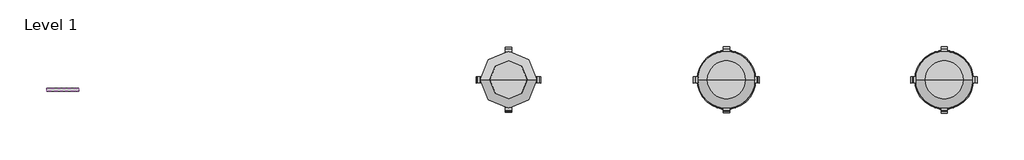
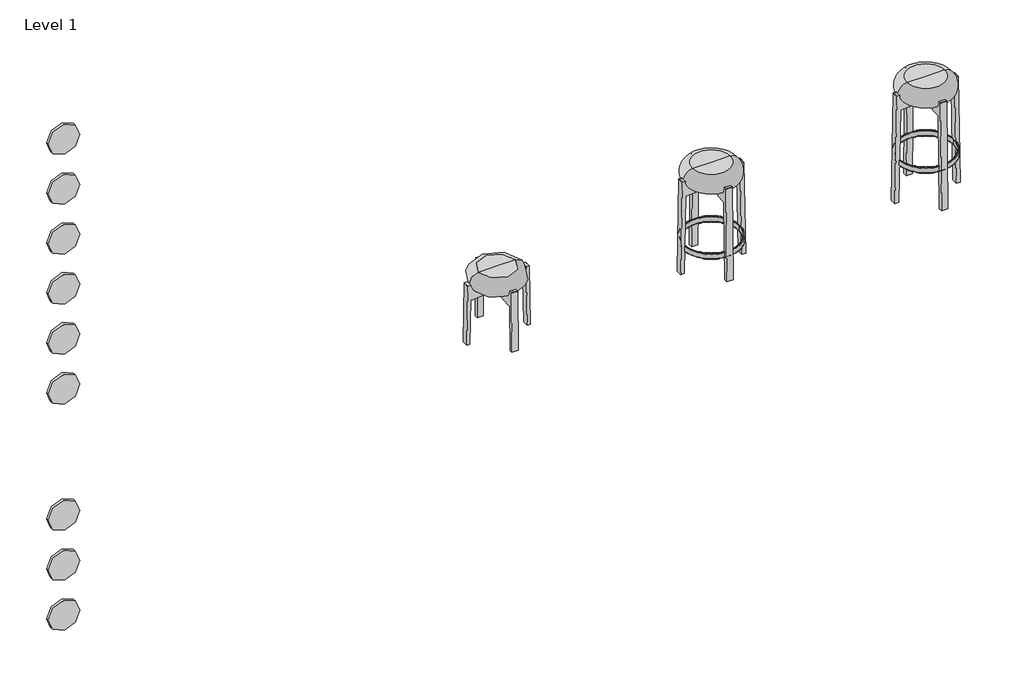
# One storey: 9 proxies, 3 furniture elements.
"""IFC4 building model written with IfcOpenShell, lengths in millimetres."""

from ifc_helpers import new_model, si_unit, origin, place, context, project, spatial, transform, mapped, element, save
from components import materialmodel_materialmodel_eea4b46c, furniture_37271b22, furniture_5f3fde73, furniture_f48b6f14

model = new_model("IFC4")

# Units and contexts
model_context = context("Model", 3, world=origin())
ifc_project = project(units=[si_unit("LENGTHUNIT", "METRE", prefix="MILLI")], contexts=[model_context])

# Site, building, storey
site = spatial("IfcSite", under=ifc_project)
building = spatial("IfcBuilding", under=site)
storey = spatial("IfcBuildingStorey", under=building, Name="Level 1", Elevation=0.0)

# Proxies
placement = place(None, origin())
materialmodel_materialmodel_shape = materialmodel_materialmodel_eea4b46c(model_context)
element("IfcBuildingElementProxy", 1, Name="MaterialModel : MaterialModel", ObjectType="MaterialModel : MaterialModel", at=placement, inside=storey, context=model_context, shape_type="MappedRepresentation", body=[
    mapped(materialmodel_materialmodel_shape, transform((-13500.792914, 6397.5703847, -212.5599218), x_axis=(1.0, 0.0, 0.0), y_axis=(0.0, 1.0, 0.0), z_axis=(0.0, 0.0, 1.0))),
])
element("IfcBuildingElementProxy", 2, Name="MaterialModel : MaterialModel", ObjectType="MaterialModel : MaterialModel", at=placement, inside=storey, context=model_context, shape_type="MappedRepresentation", body=[
    mapped(materialmodel_materialmodel_shape, transform((-13500.792914, 6397.5703847, -547.5599218), x_axis=(1.0, 0.0, 0.0), y_axis=(0.0, 1.0, 0.0), z_axis=(0.0, 0.0, 1.0))),
])
element("IfcBuildingElementProxy", 3, Name="MaterialModel : MaterialModel", ObjectType="MaterialModel : MaterialModel", at=placement, inside=storey, context=model_context, shape_type="MappedRepresentation", body=[
    mapped(materialmodel_materialmodel_shape, transform((-13500.792914, 6397.5703847, -882.5599218), x_axis=(1.0, 0.0, 0.0), y_axis=(0.0, 1.0, 0.0), z_axis=(0.0, 0.0, 1.0))),
])
element("IfcBuildingElementProxy", 4, Name="MaterialModel : MaterialModel", ObjectType="MaterialModel : MaterialModel", at=placement, inside=storey, context=model_context, shape_type="MappedRepresentation", body=[
    mapped(materialmodel_materialmodel_shape, transform((-13500.792914, 6397.5703847, 2307.4400782), x_axis=(1.0, 0.0, 0.0), y_axis=(0.0, 1.0, 0.0), z_axis=(0.0, 0.0, 1.0))),
])
element("IfcBuildingElementProxy", 5, Name="MaterialModel : MaterialModel", ObjectType="MaterialModel : MaterialModel", at=placement, inside=storey, context=model_context, shape_type="MappedRepresentation", body=[
    mapped(materialmodel_materialmodel_shape, transform((-13500.792914, 6397.5703847, 1972.4400782), x_axis=(1.0, 0.0, 0.0), y_axis=(0.0, 1.0, 0.0), z_axis=(0.0, 0.0, 1.0))),
])
element("IfcBuildingElementProxy", 6, Name="MaterialModel : MaterialModel", ObjectType="MaterialModel : MaterialModel", at=placement, inside=storey, context=model_context, shape_type="MappedRepresentation", body=[
    mapped(materialmodel_materialmodel_shape, transform((-13500.792914, 6397.5703847, 1637.4400782), x_axis=(1.0, 0.0, 0.0), y_axis=(0.0, 1.0, 0.0), z_axis=(0.0, 0.0, 1.0))),
])
element("IfcBuildingElementProxy", 7, Name="MaterialModel : MaterialModel", ObjectType="MaterialModel : MaterialModel", at=placement, inside=storey, context=model_context, shape_type="MappedRepresentation", body=[
    mapped(materialmodel_materialmodel_shape, transform((-13500.792914, 6397.5703847, 1302.4400782), x_axis=(1.0, 0.0, 0.0), y_axis=(0.0, 1.0, 0.0), z_axis=(0.0, 0.0, 1.0))),
])
element("IfcBuildingElementProxy", 8, Name="MaterialModel : MaterialModel", ObjectType="MaterialModel : MaterialModel", at=placement, inside=storey, context=model_context, shape_type="MappedRepresentation", body=[
    mapped(materialmodel_materialmodel_shape, transform((-13500.792914, 6397.5703847, 967.4400782), x_axis=(1.0, 0.0, 0.0), y_axis=(0.0, 1.0, 0.0), z_axis=(0.0, 0.0, 1.0))),
])
element("IfcBuildingElementProxy", 9, Name="MaterialModel : MaterialModel", ObjectType="MaterialModel : MaterialModel", at=placement, inside=storey, context=model_context, shape_type="MappedRepresentation", body=[
    mapped(materialmodel_materialmodel_shape, transform((-13500.792914, 6397.5703847, 632.4400782), x_axis=(1.0, 0.0, 0.0), y_axis=(0.0, 1.0, 0.0), z_axis=(0.0, 0.0, 1.0))),
])

# Furniture
furniture_shape = furniture_37271b22(model_context)
element("IfcFurniture", 10, ObjectType="Fredericia - Pioneer Bar Stool Low - 6831 : Fredericia - Pioneer Bar Stool Low - 6831", at=placement, inside=storey, context=model_context, shape_type="MappedRepresentation", body=[
    mapped(furniture_shape, transform((-9356.8470641, 6459.3026396, 0.0), x_axis=(1.0, 0.0, 0.0), y_axis=(0.0, 1.0, 0.0), z_axis=(0.0, 0.0, 1.0))),
])
furniture_2_shape = furniture_5f3fde73(model_context)
element("IfcFurniture", 11, ObjectType="Fredericia - Pioneer Stool - 6830 : Fredericia - Pioneer Stool - 6830", at=placement, inside=storey, context=model_context, shape_type="MappedRepresentation", body=[
    mapped(furniture_2_shape, transform((-10716.8470641, 6459.3026396, 0.0), x_axis=(1.0, 0.0, 0.0), y_axis=(0.0, 1.0, 0.0), z_axis=(0.0, 0.0, 1.0))),
])
furniture_3_shape = furniture_f48b6f14(model_context)
element("IfcFurniture", 12, ObjectType="Fredericia - Pioneer Bar Stool High - 6831 : Fredericia - Pioneer Bar Stool High - 6831", at=placement, inside=storey, context=model_context, shape_type="MappedRepresentation", body=[
    mapped(furniture_3_shape, transform((-7996.8470641, 6459.3026396, 0.0), x_axis=(1.0, 0.0, 0.0), y_axis=(0.0, 1.0, 0.0), z_axis=(0.0, 0.0, 1.0))),
])

save(model, "model.ifc")
